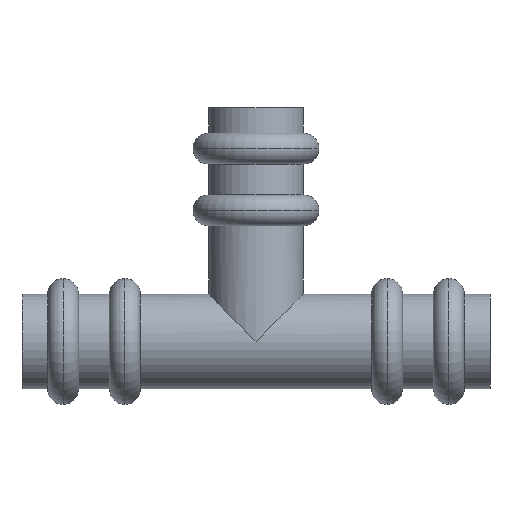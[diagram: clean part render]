
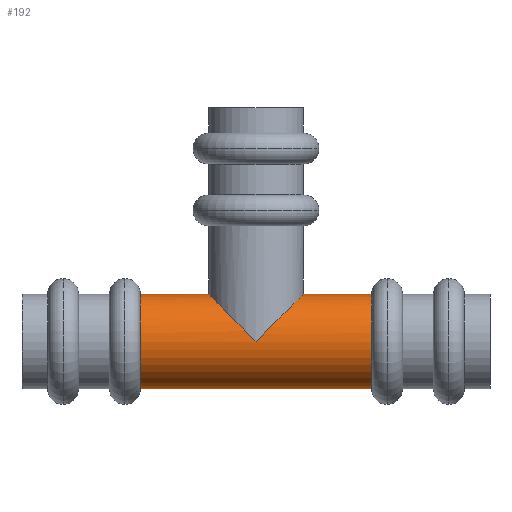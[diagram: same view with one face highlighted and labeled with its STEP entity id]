
A CAD part, front view. The second image highlights one B-rep face of the part: STEP entity #192.
In plain terms, the highlighted cylindrical face has radius 9.225 mm (diameter 18.45 mm), a partial arc.
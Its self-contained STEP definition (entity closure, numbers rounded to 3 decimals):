
#192=ADVANCED_FACE('',(#472),#473,.T.);
#472=FACE_OUTER_BOUND('',#864,.T.);
#473=CYLINDRICAL_SURFACE('',#865,9.225);
#864=EDGE_LOOP('',(#1370,#1371,#1372,#1373,#1374,#1375,#1376));
#865=AXIS2_PLACEMENT_3D('',#1377,#1378,#1379);
#1370=ORIENTED_EDGE('',*,*,#2243,.F.);
#1371=ORIENTED_EDGE('',*,*,#2244,.F.);
#1372=ORIENTED_EDGE('',*,*,#2245,.F.);
#1373=ORIENTED_EDGE('',*,*,#2246,.T.);
#1374=ORIENTED_EDGE('',*,*,#2247,.T.);
#1375=ORIENTED_EDGE('',*,*,#2248,.F.);
#1376=ORIENTED_EDGE('',*,*,#2249,.F.);
#1377=CARTESIAN_POINT('',(38.5,0.0,0.));
#1378=DIRECTION('',(-1.0,0.0,0.0));
#1379=DIRECTION('',(0.0,0.0,-1.0));
#2243=EDGE_CURVE('',#2657,#2658,#2659,.T.);
#2244=EDGE_CURVE('',#2660,#2657,#2661,.T.);
#2245=EDGE_CURVE('',#2662,#2660,#2663,.T.);
#2246=EDGE_CURVE('',#2662,#2664,#2665,.T.);
#2247=EDGE_CURVE('',#2664,#2666,#2667,.T.);
#2248=EDGE_CURVE('',#2668,#2666,#2669,.T.);
#2249=EDGE_CURVE('',#2658,#2668,#2670,.T.);
#2657=VERTEX_POINT('',#3175);
#2658=VERTEX_POINT('',#3176);
#2659=LINE('',#3177,#3178);
#2660=VERTEX_POINT('',#3179);
#2661=CIRCLE('',#3180,9.225);
#2662=VERTEX_POINT('',#3181);
#2663=LINE('',#3182,#3183);
#2664=VERTEX_POINT('',#3184);
#2665=ELLIPSE('',#3185,13.046,9.225);
#2666=VERTEX_POINT('',#3186);
#2667=ELLIPSE('',#3187,13.046,9.225);
#2668=VERTEX_POINT('',#3188);
#2669=LINE('',#3189,#3190);
#2670=CIRCLE('',#3191,9.225);
#3175=CARTESIAN_POINT('',(68.,0.,-9.225));
#3176=CARTESIAN_POINT('',(23.,0.,-9.225));
#3177=CARTESIAN_POINT('',(38.5,0.,-9.225));
#3178=VECTOR('',#3810,1.0);
#3179=CARTESIAN_POINT('',(68.,0.,9.225));
#3180=AXIS2_PLACEMENT_3D('',#3811,#3812,#3813);
#3181=CARTESIAN_POINT('',(54.725,0.,9.225));
#3182=CARTESIAN_POINT('',(38.5,0.,9.225));
#3183=VECTOR('',#3814,1.0);
#3184=CARTESIAN_POINT('',(45.5,-9.225,0.0));
#3185=AXIS2_PLACEMENT_3D('',#3815,#3816,#3817);
#3186=CARTESIAN_POINT('',(36.275,0.,9.225));
#3187=AXIS2_PLACEMENT_3D('',#3818,#3819,#3820);
#3188=CARTESIAN_POINT('',(23.,0.,9.225));
#3189=CARTESIAN_POINT('',(38.5,0.,9.225));
#3190=VECTOR('',#3821,1.0);
#3191=AXIS2_PLACEMENT_3D('',#3822,#3823,#3824);
#3810=DIRECTION('',(-1.0,0.0,0.0));
#3811=CARTESIAN_POINT('',(68.,0.0,0.));
#3812=DIRECTION('',(1.0,0.0,-0.0));
#3813=DIRECTION('',(0.0,0.0,1.0));
#3814=DIRECTION('',(1.0,-0.0,-0.0));
#3815=CARTESIAN_POINT('',(45.5,0.0,0.));
#3816=DIRECTION('',(0.707,0.0,-0.707));
#3817=DIRECTION('',(0.707,0.0,0.707));
#3818=CARTESIAN_POINT('',(45.5,0.0,0.));
#3819=DIRECTION('',(-0.707,-0.0,-0.707));
#3820=DIRECTION('',(0.707,0.0,-0.707));
#3821=DIRECTION('',(1.0,-0.0,-0.0));
#3822=CARTESIAN_POINT('',(23.,0.0,0.));
#3823=DIRECTION('',(-1.0,0.0,0.));
#3824=DIRECTION('',(0.,0.0,-1.0));
